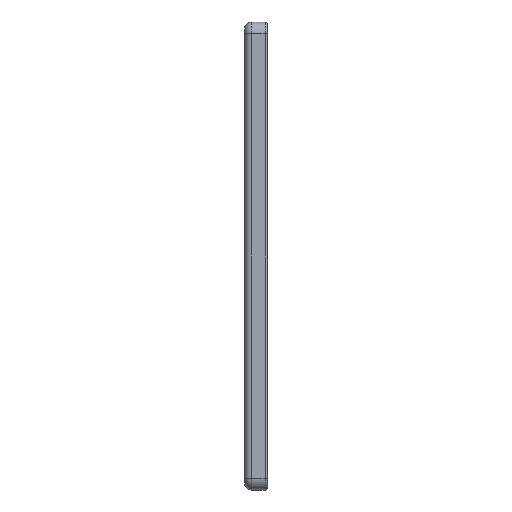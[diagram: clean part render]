
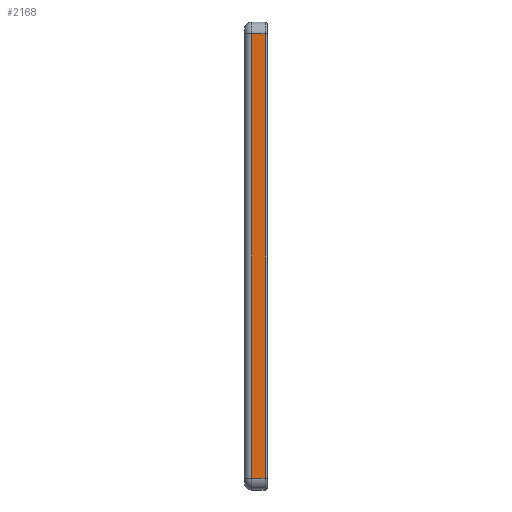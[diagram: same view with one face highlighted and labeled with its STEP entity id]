
A CAD part, left-side view. The second image highlights one B-rep face of the part: STEP entity #2168.
In plain terms, the highlighted planar face has unit normal (-1, 0, 0).
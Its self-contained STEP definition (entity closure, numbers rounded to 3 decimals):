
#158 = LINE ( 'NONE', #1566, #160 ) ;
#160 = VECTOR ( 'NONE', #1567, 1000. ) ;
#1332 = CARTESIAN_POINT ( 'NONE',  ( -150., -3.9, -95. ) ) ;
#1341 = CARTESIAN_POINT ( 'NONE',  ( -150., -3.9, 95. ) ) ;
#1349 = CARTESIAN_POINT ( 'NONE',  ( -150., 1.9, 95. ) ) ;
#1356 = CARTESIAN_POINT ( 'NONE',  ( -150., 1.9, -95. ) ) ;
#1509 = DIRECTION ( 'NONE',  ( 0., 0., 1. ) ) ;
#1511 = CARTESIAN_POINT ( 'NONE',  ( -150., 1.9, 95. ) ) ;
#1512 = CARTESIAN_POINT ( 'NONE',  ( -150., -3.9, 95. ) ) ;
#1516 = DIRECTION ( 'NONE',  ( 0., 0., -1. ) ) ;
#1517 = CARTESIAN_POINT ( 'NONE',  ( -150., 4.9, 95. ) ) ;
#1518 = DIRECTION ( 'NONE',  ( 0., -1., 0. ) ) ;
#1566 = CARTESIAN_POINT ( 'NONE',  ( -150., 4.9, -95. ) ) ;
#1567 = DIRECTION ( 'NONE',  ( 0., -1., 0. ) ) ;
#1819 = AXIS2_PLACEMENT_3D ( 'NONE', #3778, #3793, #3794 ) ;
#2168 = ADVANCED_FACE ( 'NONE', ( #3472 ), #3787, .F. ) ;
#2261 = ORIENTED_EDGE ( 'NONE', *, *, #3931, .T. ) ;
#2262 = VERTEX_POINT ( 'NONE', #1332 ) ;
#2314 = VERTEX_POINT ( 'NONE', #1341 ) ;
#2320 = ORIENTED_EDGE ( 'NONE', *, *, #3903, .T. ) ;
#2323 = ORIENTED_EDGE ( 'NONE', *, *, #3904, .T. ) ;
#2326 = ORIENTED_EDGE ( 'NONE', *, *, #3905, .F. ) ;
#2362 = VERTEX_POINT ( 'NONE', #1349 ) ;
#2394 = VERTEX_POINT ( 'NONE', #1356 ) ;
#3472 = FACE_OUTER_BOUND ( 'NONE', #3783, .T. ) ;
#3778 = CARTESIAN_POINT ( 'NONE',  ( -150., 4.9, 95. ) ) ;
#3783 = EDGE_LOOP ( 'NONE', ( #2261, #2320, #2326, #2323 ) ) ;
#3787 = PLANE ( 'NONE',  #1819 ) ;
#3793 = DIRECTION ( 'NONE',  ( 1., 0., 0. ) ) ;
#3794 = DIRECTION ( 'NONE',  ( 0., 0., -1. ) ) ;
#3903 = EDGE_CURVE ( 'NONE', #2262, #2314, #4506, .T. ) ;
#3904 = EDGE_CURVE ( 'NONE', #2362, #2394, #4510, .T. ) ;
#3905 = EDGE_CURVE ( 'NONE', #2362, #2314, #4513, .T. ) ;
#3931 = EDGE_CURVE ( 'NONE', #2394, #2262, #158, .T. ) ;
#4506 = LINE ( 'NONE', #1512, #4512 ) ;
#4510 = LINE ( 'NONE', #1511, #4514 ) ;
#4512 = VECTOR ( 'NONE', #1509, 1000. ) ;
#4513 = LINE ( 'NONE', #1517, #4516 ) ;
#4514 = VECTOR ( 'NONE', #1516, 1000. ) ;
#4516 = VECTOR ( 'NONE', #1518, 1000. ) ;
